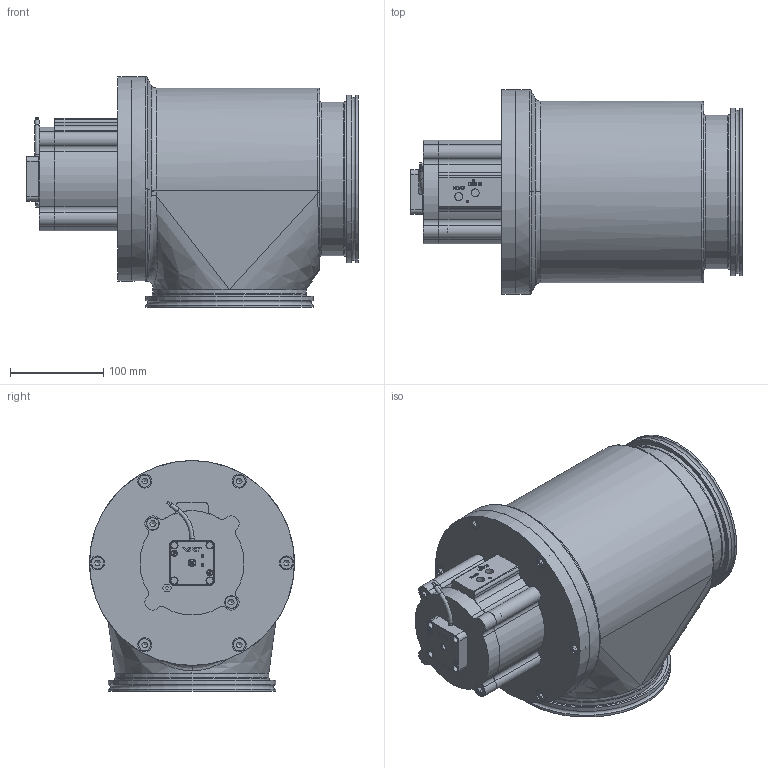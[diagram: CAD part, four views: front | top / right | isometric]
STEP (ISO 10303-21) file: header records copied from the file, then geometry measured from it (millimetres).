
FILE_DESCRIPTION(/* description */ (''),/* implementation_level */ '2;1');
FILE_NAME(/* name */ '1367080686_203.stp',/* time_stamp */ '2016-03-04T11:00:59+01:00',/* author */ (''),/* organization */ (''),/* preprocessor_version */ 'ST-DEVELOPER v15',/* originating_system */ 'SIEMENS PLM Software NX 9.0',/* authorisation */ '');
FILE_SCHEMA (('AP203_CONFIGURATION_CONTROLLED_3D_DESIGN_OF_MECHANICAL_PARTS_AND_ASSEMBLIES_MIM_LF { 1 0 10303 403 2 1 2}'));
Length unit declared in the file: millimetre
Products named in the file (16): 236204_1.1; 233359; 421306; n-6121-026.2; 517625_22908ID; 500093_22996ID; n-7636-200.2; 711043; 544422; 542372; 228777; 476060; 421285; 544362_MODEL; 500278_MODEL; 562455
Assembly tree (23 placements, depth 3):
  562455
    476060
    500278_MODEL
      500093_22996ID
    228777  x6
    542372
    544422
    544362_MODEL
      517625_22908ID
      n-6121-026.2  x2
    421285
      421306
      233359
      236204_1.1  x2
    711043  x2
    n-7636-200.2
Bounding box: 356.5 x 220 x 248 mm (x, y, z)
Volume: 2649238.8 mm3; surface area: 608952.8 mm2
Topology: 36 solids, 36 shells, 897 faces, 2189 edges, 1424 vertices
Faces by surface type: plane 458, cylinder 251, cone 85, bspline 50, torus 32, extrusion 19, sphere 2
Full cylindrical faces by diameter (mm): 1.4 x4, 2.5 x5, 3 x7, 3.85 x2, 4 x1, 4.2 x2, 4.5 x2, 5 x1, 5.6 x2, 6.2 x2, 6.66 x8, 6.7 x8, 6.8 x10, 7.4 x1, 8 x17, 8.15 x2, 8.3 x6, 8.4 x1, 8.566 x2, 9 x6, 13 x8, 14 x2, 15 x8, 21 x1, 23.011 x3, 23.3 x1, 29.4 x2, 30 x1, 33.7 x1, 36 x1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
Entity records: 27178 total; most frequent: CARTESIAN_POINT 7969, DIRECTION 3433, ORIENTED_EDGE 3318, EDGE_CURVE 1659, AXIS2_PLACEMENT_3D 1335, VERTEX_POINT 1192, EDGE_LOOP 1084, ADVANCED_FACE 764
